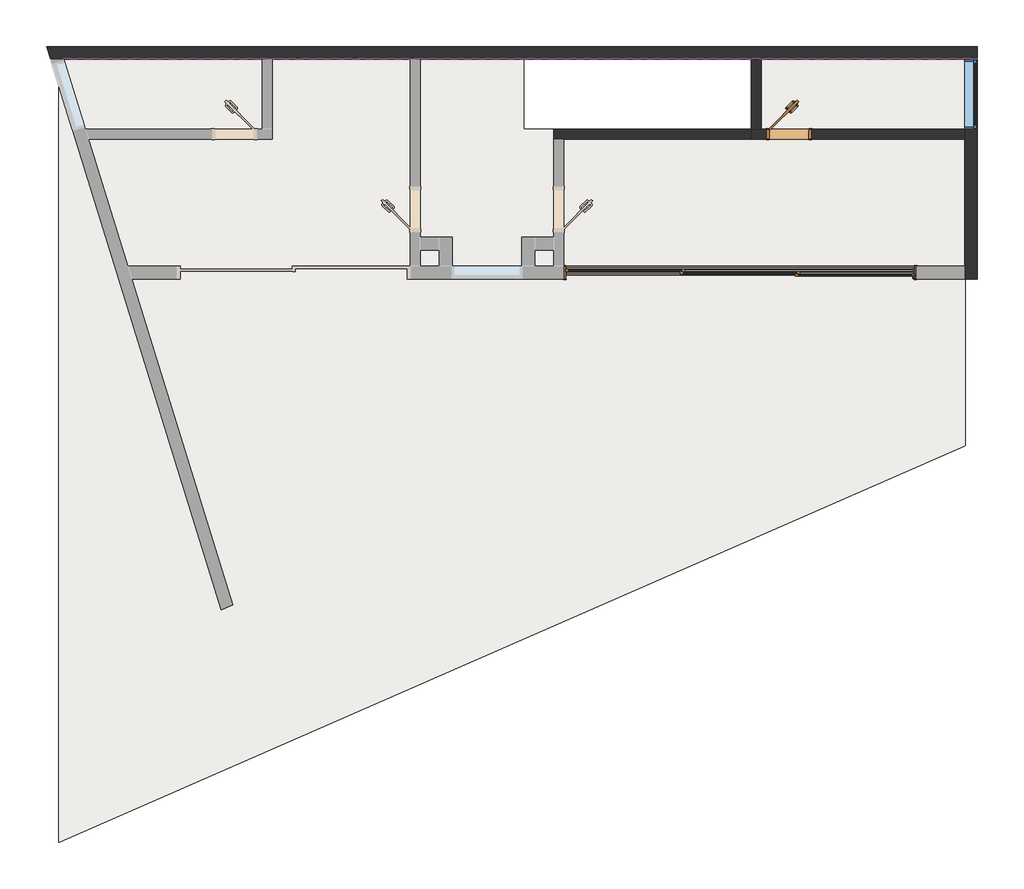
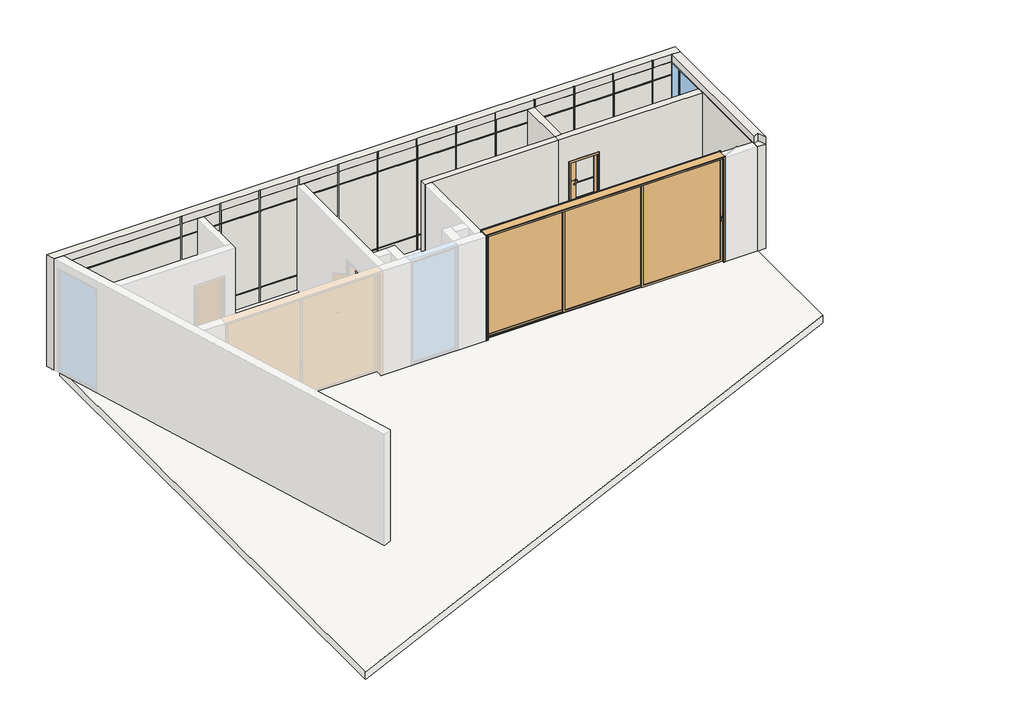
# One storey, part 2 of 2: 10 proxies, 5 walls, 2 doors, 1 slab, 1 window.
"""IFC4 building model written with IfcOpenShell, lengths in millimetres."""

from ifc_helpers import new_model, si_unit, frame, origin, place, context, project, spatial, polyline, outline, extrude, faceted_brep, transform, mapped, element, save
from components import door_0_70x2_10_7b4c54ac, door_280x600_c2e8b364, m_fixo_parede_completa_preta_2_8m_a4844c1d

model = new_model("IFC4")

# Units and contexts
model_context = context("Model", 3, world=origin())
ifc_project = project(units=[si_unit("LENGTHUNIT", "METRE", prefix="MILLI")], contexts=[model_context])

# Site, building, storey
site = spatial("IfcSite", under=ifc_project)
building = spatial("IfcBuilding", under=site)
storey = spatial("IfcBuildingStorey", under=building, Name="PÁV. SUPERIOR", Elevation=3700.0)

# Proxies
placement = place(None, origin())
element("IfcBuildingElementProxy", 1, Name="FRISO 01", ObjectType="FRISO 01", at=placement, inside=storey, context=model_context, shape_type="SweptSolid", body=[
    extrude(outline(polyline([(7561.0881727, 3700.0), (7546.0881727, 3700.0), (7546.0881727, 6500.0), (7556.0881727, 6500.0), (7556.0881727, 6700.0), (7561.0881727, 6700.0), (7561.0881727, 3700.0)])), frame((-3255.9261097, 0.0, 0.0), z_axis=(1.0, 0.0, 0.0), x_axis=(0.0, 1.0, 0.0)), (0.0, 0.0, 1.0), 30.0),
])
element("IfcBuildingElementProxy", 2, Name="FRISO 01", ObjectType="FRISO 01", at=placement, inside=storey, context=model_context, shape_type="SweptSolid", body=[
    extrude(outline(polyline([(7561.0881727, 3700.0), (7546.0881727, 3700.0), (7546.0881727, 6500.0), (7556.0881727, 6500.0), (7556.0881727, 6700.0), (7561.0881727, 6700.0), (7561.0881727, 3700.0)])), frame((-2255.9261097, 0.0, 0.0), z_axis=(1.0, 0.0, 0.0), x_axis=(0.0, 1.0, 0.0)), (0.0, 0.0, 1.0), 30.0),
])
element("IfcBuildingElementProxy", 3, Name="FRISO 01", ObjectType="FRISO 01", at=placement, inside=storey, context=model_context, shape_type="SweptSolid", body=[
    extrude(outline(polyline([(7561.0881727, 3700.0), (7546.0881727, 3700.0), (7546.0881727, 6500.0), (7556.0881727, 6500.0), (7556.0881727, 6700.0), (7561.0881727, 6700.0), (7561.0881727, 3700.0)])), frame((-1255.9261097, 0.0, 0.0), z_axis=(1.0, 0.0, 0.0), x_axis=(0.0, 1.0, 0.0)), (0.0, 0.0, 1.0), 30.0),
])
element("IfcBuildingElementProxy", 4, Name="FRISO 01", ObjectType="FRISO 01", at=placement, inside=storey, context=model_context, shape_type="SweptSolid", body=[
    extrude(outline(polyline([(7561.0881727, 3700.0), (7546.0881727, 3700.0), (7546.0881727, 6500.0), (7556.0881727, 6500.0), (7556.0881727, 6700.0), (7561.0881727, 6700.0), (7561.0881727, 3700.0)])), frame((-255.9261097, 0.0, 0.0), z_axis=(1.0, 0.0, 0.0), x_axis=(0.0, 1.0, 0.0)), (0.0, 0.0, 1.0), 30.0),
])
element("IfcBuildingElementProxy", 5, Name="FRISO 01", ObjectType="FRISO 01", at=placement, inside=storey, context=model_context, shape_type="SweptSolid", body=[
    extrude(outline(polyline([(7561.0881727, 3700.0), (7546.0881727, 3700.0), (7546.0881727, 6500.0), (7556.0881727, 6500.0), (7556.0881727, 6700.0), (7561.0881727, 6700.0), (7561.0881727, 3700.0)])), frame((744.0738903, 0.0, 0.0), z_axis=(1.0, 0.0, 0.0), x_axis=(0.0, 1.0, 0.0)), (0.0, 0.0, 1.0), 30.0),
])
element("IfcBuildingElementProxy", 6, Name="FRISO 01", ObjectType="FRISO 01", at=placement, inside=storey, context=model_context, shape_type="SweptSolid", body=[
    extrude(outline(polyline([(7561.0881727, 3700.0), (7546.0881727, 3700.0), (7546.0881727, 6500.0), (7556.0881727, 6500.0), (7556.0881727, 6700.0), (7561.0881727, 6700.0), (7561.0881727, 3700.0)])), frame((1744.0738903, 0.0, 0.0), z_axis=(1.0, 0.0, 0.0), x_axis=(0.0, 1.0, 0.0)), (0.0, 0.0, 1.0), 30.0),
])
element("IfcBuildingElementProxy", 7, Name="FRISO 01", ObjectType="FRISO 01", at=placement, inside=storey, context=model_context, shape_type="SweptSolid", body=[
    extrude(outline(polyline([(7561.0881727, 3700.0), (7546.0881727, 3700.0), (7546.0881727, 6500.0), (7556.0881727, 6500.0), (7556.0881727, 6700.0), (7561.0881727, 6700.0), (7561.0881727, 3700.0)])), frame((2744.0738903, 0.0, 0.0), z_axis=(1.0, 0.0, 0.0), x_axis=(0.0, 1.0, 0.0)), (0.0, 0.0, 1.0), 30.0),
])
element("IfcBuildingElementProxy", 8, Name="FRISO 01", ObjectType="FRISO 01", at=placement, inside=storey, context=model_context, shape_type="SweptSolid", body=[
    extrude(outline(polyline([(7561.0881727, 3700.0), (7546.0881727, 3700.0), (7546.0881727, 6500.0), (7556.0881727, 6500.0), (7556.0881727, 6700.0), (7561.0881727, 6700.0), (7561.0881727, 3700.0)])), frame((3744.0738903, 0.0, 0.0), z_axis=(1.0, 0.0, 0.0), x_axis=(0.0, 1.0, 0.0)), (0.0, 0.0, 1.0), 30.0),
])
element("IfcBuildingElementProxy", 9, Name="FRISO 01", ObjectType="FRISO 01", at=placement, inside=storey, context=model_context, shape_type="SweptSolid", body=[
    extrude(outline(polyline([(-11243.1247194, 7546.0881727), (-11247.7672781, 7561.0881727), (4458.4881645, 7561.0881727), (4458.4881645, 7546.0881727), (-11243.1247194, 7546.0881727)])), frame((0.0, 0.0, 6140.0), z_axis=(0.0, 0.0, 1.0), x_axis=(1.0, 0.0, 0.0)), (0.0, 0.0, 1.0), 30.0),
])
element("IfcBuildingElementProxy", 10, Name="FRISO 01", ObjectType="FRISO 01", at=placement, inside=storey, context=model_context, shape_type="SweptSolid", body=[
    extrude(outline(polyline([(-11243.1247194, 7546.0881727), (-11247.7672781, 7561.0881727), (4458.4881645, 7561.0881727), (4458.4881645, 7546.0881727), (-11243.1247194, 7546.0881727)])), frame((0.0, 0.0, 4080.0), z_axis=(0.0, 0.0, 1.0), x_axis=(1.0, 0.0, 0.0)), (0.0, 0.0, 1.0), 30.0),
])

# Doors
door_0_70x2_10_shape = door_0_70x2_10_7b4c54ac(model_context)
element("IfcDoor", 11, ObjectType="porta de abrir simples : 0,70x2,10", at=placement, inside=storey, context=model_context, shape_type="MappedRepresentation", body=[
    mapped(door_0_70x2_10_shape, transform((1218.4881645, 6261.0881727, 3700.0), x_axis=(1.0, 0.0, 0.0), y_axis=(0.0, 1.0, 0.0), z_axis=(0.0, 0.0, 1.0))),
])
door_280x600_shape = door_280x600_c2e8b364(model_context)
element("IfcDoor", 12, ObjectType="porta de correr uma direção : 280X600", at=placement, inside=storey, context=model_context, shape_type="MappedRepresentation", body=[
    mapped(door_280x600_shape, transform((378.8175746, 3876.629058, 3700.0), x_axis=(1.0, 0.0, 0.0), y_axis=(0.0, 1.0, 0.0), z_axis=(0.0, 0.0, 1.0))),
])

# Slab
element("IfcSlab", 13, ObjectType="Concreto polido - 20cm", at=placement, inside=storey, context=model_context, shape_type="Brep", body=[
    faceted_brep([(-11331.5118355, -5920.0331832, 3500.0), (-11331.5118355, 7556.0881727, 3500.0), (-11321.5118355, 7556.0881727, 3500.0), (-3341.5118355, 7556.0881727, 3500.0), (-3341.5118355, 7546.0881727, 3500.0), (-3341.5118355, 6346.0881727, 3500.0), (568.4881645, 6346.0881727, 3500.0), (568.4881645, 7546.0881727, 3500.0), (568.4881645, 7556.0881727, 3500.0), (4238.4881645, 7556.0881727, 3500.0), (4248.4881645, 7556.0881727, 3500.0), (4248.4881645, 2486.629058, 3500.0), (4248.4881645, 1286.629058, 3500.0), (4248.4881645, 903.3736599, 3500.0), (4238.4881645, 898.9940663, 3500.0), (-11321.5118355, -5915.6535896, 3500.0), (3994.290898, 986.629058, 3500.0), (3994.290898, 1008.4630535, 3500.0), (3944.4369675, 986.629058, 3500.0), (3442.1072547, 766.629058, 3500.0), (-11170.9584324, -5633.2998514, 3500.0), (-11170.9584324, -5655.1338469, 3500.0), (3491.9611852, 766.629058, 3500.0), (-11331.5118355, 7556.0881727, 3700.0), (-11331.5118355, -5920.0331832, 3700.0), (-11321.5118355, -5915.6535896, 3700.0), (4238.4881645, 898.9940663, 3700.0), (4248.4881645, 903.3736599, 3700.0), (4248.4881645, 7556.0881727, 3700.0), (4238.4881645, 7556.0881727, 3700.0), (568.4881645, 7556.0881727, 3700.0), (568.4881645, 7546.0881727, 3700.0), (568.4881645, 6346.0881727, 3700.0), (-3341.5118355, 6346.0881727, 3700.0), (-3341.5118355, 7546.0881727, 3700.0), (-3341.5118355, 7556.0881727, 3700.0), (-11321.5118355, 7556.0881727, 3700.0), (3994.290898, 986.629058, 3520.0), (3491.9611852, 766.629058, 3520.0), (-11170.9584324, -5655.1338469, 3520.0), (-11170.9584324, -5633.2998514, 3520.0), (3442.1072547, 766.629058, 3520.0), (3944.4369675, 986.629058, 3520.0), (3994.290898, 1008.4630535, 3520.0)], [[[0, 1, 2, 3, 4, 5, 6, 7, 8, 9, 10, 11, 12, 13, 14, 15], [16, 17, 18, 19, 20, 21, 22]], [[23, 24, 25, 26, 27, 28, 29, 30, 31, 32, 33, 34, 35, 36]], [[1, 0, 24, 23]], [[10, 9, 8, 30, 29, 28]], [[13, 12, 11, 10, 28, 27]], [[0, 15, 14, 13, 27, 26, 25, 24]], [[3, 2, 1, 23, 36, 35]], [[5, 4, 3, 35, 34, 33]], [[6, 5, 33, 32]], [[8, 7, 6, 32, 31, 30]], [[37, 38, 39, 40, 41, 42, 43]], [[37, 43, 17, 16]], [[43, 42, 41, 40, 20, 19, 18, 17]], [[40, 39, 21, 20]], [[39, 38, 37, 16, 22, 21]]]),
])

# Walls
element("IfcWall", 14, ObjectType="Parede Externa - 22cm", at=placement, inside=storey, context=model_context, shape_type="Brep", body=[
    faceted_brep([(-3255.9261097, 7546.0881727, 6500.0), (-4225.9261097, 7546.0881727, 6500.0), (-4225.9261097, 7546.0881727, 6170.0), (-3255.9261097, 7546.0881727, 6170.0), (-4225.9261097, 7546.0881727, 3700.0), (-3341.5118355, 7546.0881727, 3700.0), (-3255.9261097, 7546.0881727, 3700.0), (-3255.9261097, 7546.0881727, 4080.0), (-4225.9261097, 7546.0881727, 4080.0), (-2255.9261097, 7546.0881727, 6500.0), (-3225.9261097, 7546.0881727, 6500.0), (-3225.9261097, 7546.0881727, 6170.0), (-2255.9261097, 7546.0881727, 6170.0), (-3225.9261097, 7546.0881727, 3700.0), (-2255.9261097, 7546.0881727, 3700.0), (-2255.9261097, 7546.0881727, 4080.0), (-3225.9261097, 7546.0881727, 4080.0), (-1255.9261097, 7546.0881727, 6500.0), (-2225.9261097, 7546.0881727, 6500.0), (-2225.9261097, 7546.0881727, 6170.0), (-1255.9261097, 7546.0881727, 6170.0), (-2225.9261097, 7546.0881727, 3700.0), (-1255.9261097, 7546.0881727, 3700.0), (-1255.9261097, 7546.0881727, 4080.0), (-2225.9261097, 7546.0881727, 4080.0), (-255.9261097, 7546.0881727, 6500.0), (-1225.9261097, 7546.0881727, 6500.0), (-1225.9261097, 7546.0881727, 6170.0), (-255.9261097, 7546.0881727, 6170.0), (-1225.9261097, 7546.0881727, 3700.0), (-255.9261097, 7546.0881727, 3700.0), (-255.9261097, 7546.0881727, 4080.0), (-1225.9261097, 7546.0881727, 4080.0), (744.0738903, 7546.0881727, 6500.0), (738.4881645, 7546.0881727, 6500.0), (568.4881645, 7546.0881727, 6500.0), (-225.9261097, 7546.0881727, 6500.0), (-225.9261097, 7546.0881727, 6170.0), (744.0738903, 7546.0881727, 6170.0), (-225.9261097, 7546.0881727, 3700.0), (568.4881645, 7546.0881727, 3700.0), (738.4881645, 7546.0881727, 3700.0), (744.0738903, 7546.0881727, 3700.0), (744.0738903, 7546.0881727, 4080.0), (-225.9261097, 7546.0881727, 4080.0), (1744.0738903, 7546.0881727, 6500.0), (774.0738903, 7546.0881727, 6500.0), (774.0738903, 7546.0881727, 6170.0), (1744.0738903, 7546.0881727, 6170.0), (774.0738903, 7546.0881727, 3700.0), (1744.0738903, 7546.0881727, 3700.0), (1744.0738903, 7546.0881727, 4080.0), (774.0738903, 7546.0881727, 4080.0), (2744.0738903, 7546.0881727, 6500.0), (1774.0738903, 7546.0881727, 6500.0), (1774.0738903, 7546.0881727, 6170.0), (2744.0738903, 7546.0881727, 6170.0), (1774.0738903, 7546.0881727, 3700.0), (2744.0738903, 7546.0881727, 3700.0), (2744.0738903, 7546.0881727, 4080.0), (1774.0738903, 7546.0881727, 4080.0), (3744.0738903, 7546.0881727, 6500.0), (2774.0738903, 7546.0881727, 6500.0), (2774.0738903, 7546.0881727, 6170.0), (3744.0738903, 7546.0881727, 6170.0), (2774.0738903, 7546.0881727, 3700.0), (3744.0738903, 7546.0881727, 3700.0), (3744.0738903, 7546.0881727, 4080.0), (2774.0738903, 7546.0881727, 4080.0), (3774.0738903, 7546.0881727, 3700.0), (4458.4881645, 7546.0881727, 3700.0), (4458.4881645, 7546.0881727, 4080.0), (3774.0738903, 7546.0881727, 4080.0), (-5225.9261097, 7546.0881727, 3700.0), (-5121.1824254, 7546.0881727, 3700.0), (-4255.9261097, 7546.0881727, 3700.0), (-4255.9261097, 7546.0881727, 4080.0), (-5225.9261097, 7546.0881727, 4080.0), (-6225.9261097, 7546.0881727, 3700.0), (-5291.1824254, 7546.0881727, 3700.0), (-5255.9261097, 7546.0881727, 3700.0), (-5255.9261097, 7546.0881727, 4080.0), (-6225.9261097, 7546.0881727, 4080.0), (-7225.9261097, 7546.0881727, 3700.0), (-6255.9261097, 7546.0881727, 3700.0), (-6255.9261097, 7546.0881727, 4080.0), (-7225.9261097, 7546.0881727, 4080.0), (-6255.9261097, 7546.0881727, 6500.0), (-7225.9261097, 7546.0881727, 6500.0), (-7225.9261097, 7546.0881727, 6170.0), (-6255.9261097, 7546.0881727, 6170.0), (-11473.4209749, 7546.0881727, 3700.0), (-11243.1247194, 7546.0881727, 3700.0), (-8255.9261097, 7546.0881727, 3700.0), (-8255.9261097, 7546.0881727, 4080.0), (-11243.1247194, 7546.0881727, 4080.0), (-11243.1247194, 7546.0881727, 4110.0), (-8255.9261097, 7546.0881727, 4110.0), (-8255.9261097, 7546.0881727, 6140.0), (-11243.1247194, 7546.0881727, 6140.0), (-11243.1247194, 7546.0881727, 6170.0), (-8255.9261097, 7546.0881727, 6170.0), (-8255.9261097, 7546.0881727, 6500.0), (-11243.1247194, 7546.0881727, 6500.0), (-11243.1247194, 7546.0881727, 6700.0), (-11473.4209749, 7546.0881727, 6700.0), (-8225.9261097, 7546.0881727, 3700.0), (-7831.5118355, 7546.0881727, 3700.0), (-7661.5118355, 7546.0881727, 3700.0), (-7255.9261097, 7546.0881727, 3700.0), (-7255.9261097, 7546.0881727, 4080.0), (-8225.9261097, 7546.0881727, 4080.0), (4458.4881645, 7546.0881727, 6140.0), (3774.0738903, 7546.0881727, 6140.0), (3774.0738903, 7546.0881727, 4110.0), (4458.4881645, 7546.0881727, 4110.0), (-4255.9261097, 7546.0881727, 6140.0), (-5225.9261097, 7546.0881727, 6140.0), (-5225.9261097, 7546.0881727, 4110.0), (-4255.9261097, 7546.0881727, 4110.0), (-3255.9261097, 7546.0881727, 6140.0), (-4225.9261097, 7546.0881727, 6140.0), (-4225.9261097, 7546.0881727, 4110.0), (-3255.9261097, 7546.0881727, 4110.0), (-2255.9261097, 7546.0881727, 6140.0), (-3225.9261097, 7546.0881727, 6140.0), (-3225.9261097, 7546.0881727, 4110.0), (-2255.9261097, 7546.0881727, 4110.0), (-1255.9261097, 7546.0881727, 6140.0), (-2225.9261097, 7546.0881727, 6140.0), (-2225.9261097, 7546.0881727, 4110.0), (-1255.9261097, 7546.0881727, 4110.0), (-255.9261097, 7546.0881727, 6140.0), (-1225.9261097, 7546.0881727, 6140.0), (-1225.9261097, 7546.0881727, 4110.0), (-255.9261097, 7546.0881727, 4110.0), (744.0738903, 7546.0881727, 6140.0), (-225.9261097, 7546.0881727, 6140.0), (-225.9261097, 7546.0881727, 4110.0), (744.0738903, 7546.0881727, 4110.0), (1744.0738903, 7546.0881727, 6140.0), (774.0738903, 7546.0881727, 6140.0), (774.0738903, 7546.0881727, 4110.0), (1744.0738903, 7546.0881727, 4110.0), (2744.0738903, 7546.0881727, 6140.0), (1774.0738903, 7546.0881727, 6140.0), (1774.0738903, 7546.0881727, 4110.0), (2744.0738903, 7546.0881727, 4110.0), (3744.0738903, 7546.0881727, 6140.0), (2774.0738903, 7546.0881727, 6140.0), (2774.0738903, 7546.0881727, 4110.0), (3744.0738903, 7546.0881727, 4110.0), (-5255.9261097, 7546.0881727, 6140.0), (-6225.9261097, 7546.0881727, 6140.0), (-6225.9261097, 7546.0881727, 4110.0), (-5255.9261097, 7546.0881727, 4110.0), (-6255.9261097, 7546.0881727, 6140.0), (-7225.9261097, 7546.0881727, 6140.0), (-7225.9261097, 7546.0881727, 4110.0), (-6255.9261097, 7546.0881727, 4110.0), (-7255.9261097, 7546.0881727, 6140.0), (-8225.9261097, 7546.0881727, 6140.0), (-8225.9261097, 7546.0881727, 4110.0), (-7255.9261097, 7546.0881727, 4110.0), (-4255.9261097, 7546.0881727, 6500.0), (-5121.1824254, 7546.0881727, 6500.0), (-5225.9261097, 7546.0881727, 6500.0), (-5225.9261097, 7546.0881727, 6170.0), (-4255.9261097, 7546.0881727, 6170.0), (-5255.9261097, 7546.0881727, 6500.0), (-5291.1824254, 7546.0881727, 6500.0), (-6225.9261097, 7546.0881727, 6500.0), (-6225.9261097, 7546.0881727, 6170.0), (-5255.9261097, 7546.0881727, 6170.0), (-7255.9261097, 7546.0881727, 6500.0), (-7661.5118355, 7546.0881727, 6500.0), (-7831.5118355, 7546.0881727, 6500.0), (-8225.9261097, 7546.0881727, 6500.0), (-8225.9261097, 7546.0881727, 6170.0), (-7255.9261097, 7546.0881727, 6170.0), (4458.4881645, 7546.0881727, 6700.0), (4248.4881645, 7546.0881727, 6700.0), (4248.4881645, 7546.0881727, 6500.0), (3774.0738903, 7546.0881727, 6500.0), (3774.0738903, 7546.0881727, 6170.0), (4458.4881645, 7546.0881727, 6170.0), (4458.4881645, 7546.0881727, 6500.0), (4458.4881645, 7766.0881727, 3700.0), (4238.4881645, 7766.0881727, 3700.0), (-11321.5118355, 7766.0881727, 3700.0), (-11541.5118355, 7766.0881727, 3700.0), (-11541.5118355, 7766.0881727, 6700.0), (4458.4881645, 7766.0881727, 6700.0), (3774.0738903, 7561.0881727, 3700.0), (3744.0738903, 7561.0881727, 3700.0), (2774.0738903, 7561.0881727, 3700.0), (2744.0738903, 7561.0881727, 3700.0), (1774.0738903, 7561.0881727, 3700.0), (1744.0738903, 7561.0881727, 3700.0), (774.0738903, 7561.0881727, 3700.0), (744.0738903, 7561.0881727, 3700.0), (-225.9261097, 7561.0881727, 3700.0), (-255.9261097, 7561.0881727, 3700.0), (-1225.9261097, 7561.0881727, 3700.0), (-1255.9261097, 7561.0881727, 3700.0), (-2225.9261097, 7561.0881727, 3700.0), (-2255.9261097, 7561.0881727, 3700.0), (-3225.9261097, 7561.0881727, 3700.0), (-3255.9261097, 7561.0881727, 3700.0), (-4225.9261097, 7561.0881727, 3700.0), (-4255.9261097, 7561.0881727, 3700.0), (-5225.9261097, 7561.0881727, 3700.0), (-5255.9261097, 7561.0881727, 3700.0), (-6225.9261097, 7561.0881727, 3700.0), (-6255.9261097, 7561.0881727, 3700.0), (-7225.9261097, 7561.0881727, 3700.0), (-7255.9261097, 7561.0881727, 3700.0), (-8225.9261097, 7561.0881727, 3700.0), (-8255.9261097, 7561.0881727, 3700.0), (-11246.2197586, 7556.0881727, 6700.0), (-8255.9261097, 7556.0881727, 6700.0), (-8255.9261097, 7561.0881727, 6700.0), (-8225.9261097, 7561.0881727, 6700.0), (-8225.9261097, 7556.0881727, 6700.0), (-7255.9261097, 7556.0881727, 6700.0), (-7255.9261097, 7561.0881727, 6700.0), (-7225.9261097, 7561.0881727, 6700.0), (-7225.9261097, 7556.0881727, 6700.0), (-6255.9261097, 7556.0881727, 6700.0), (-6255.9261097, 7561.0881727, 6700.0), (-6225.9261097, 7561.0881727, 6700.0), (-6225.9261097, 7556.0881727, 6700.0), (-5255.9261097, 7556.0881727, 6700.0), (-5255.9261097, 7561.0881727, 6700.0), (-5225.9261097, 7561.0881727, 6700.0), (-5225.9261097, 7556.0881727, 6700.0), (-4255.9261097, 7556.0881727, 6700.0), (-4255.9261097, 7561.0881727, 6700.0), (-4225.9261097, 7561.0881727, 6700.0), (-4225.9261097, 7556.0881727, 6700.0), (-3255.9261097, 7556.0881727, 6700.0), (-3255.9261097, 7561.0881727, 6700.0), (-3225.9261097, 7561.0881727, 6700.0), (-3225.9261097, 7556.0881727, 6700.0), (-2255.9261097, 7556.0881727, 6700.0), (-2255.9261097, 7561.0881727, 6700.0), (-2225.9261097, 7561.0881727, 6700.0), (-2225.9261097, 7556.0881727, 6700.0), (-1255.9261097, 7556.0881727, 6700.0), (-1255.9261097, 7561.0881727, 6700.0), (-1225.9261097, 7561.0881727, 6700.0), (-1225.9261097, 7556.0881727, 6700.0), (-255.9261097, 7556.0881727, 6700.0), (-255.9261097, 7561.0881727, 6700.0), (-225.9261097, 7561.0881727, 6700.0), (-225.9261097, 7556.0881727, 6700.0), (744.0738903, 7556.0881727, 6700.0), (744.0738903, 7561.0881727, 6700.0), (774.0738903, 7561.0881727, 6700.0), (774.0738903, 7556.0881727, 6700.0), (1744.0738903, 7556.0881727, 6700.0), (1744.0738903, 7561.0881727, 6700.0), (1774.0738903, 7561.0881727, 6700.0), (1774.0738903, 7556.0881727, 6700.0), (2744.0738903, 7556.0881727, 6700.0), (2744.0738903, 7561.0881727, 6700.0), (2774.0738903, 7561.0881727, 6700.0), (2774.0738903, 7556.0881727, 6700.0), (3744.0738903, 7556.0881727, 6700.0), (3744.0738903, 7561.0881727, 6700.0), (3774.0738903, 7561.0881727, 6700.0), (3774.0738903, 7556.0881727, 6700.0), (4248.4881645, 7556.0881727, 6700.0), (4458.4881645, 7561.0881727, 6170.0), (4458.4881645, 7561.0881727, 6140.0), (4458.4881645, 7561.0881727, 4110.0), (4458.4881645, 7561.0881727, 4080.0), (4248.4881645, 7556.0881727, 6500.0), (3774.0738903, 7556.0881727, 6500.0), (-4255.9261097, 7556.0881727, 6500.0), (-5225.9261097, 7556.0881727, 6500.0), (-4225.9261097, 7556.0881727, 6500.0), (-3255.9261097, 7556.0881727, 6500.0), (-3225.9261097, 7556.0881727, 6500.0), (-2255.9261097, 7556.0881727, 6500.0), (-2225.9261097, 7556.0881727, 6500.0), (-1255.9261097, 7556.0881727, 6500.0), (-1225.9261097, 7556.0881727, 6500.0), (-255.9261097, 7556.0881727, 6500.0), (-225.9261097, 7556.0881727, 6500.0), (744.0738903, 7556.0881727, 6500.0), (774.0738903, 7556.0881727, 6500.0), (1744.0738903, 7556.0881727, 6500.0), (1774.0738903, 7556.0881727, 6500.0), (2744.0738903, 7556.0881727, 6500.0), (2774.0738903, 7556.0881727, 6500.0), (3744.0738903, 7556.0881727, 6500.0), (-5255.9261097, 7556.0881727, 6500.0), (-6225.9261097, 7556.0881727, 6500.0), (-6255.9261097, 7556.0881727, 6500.0), (-7225.9261097, 7556.0881727, 6500.0), (-7255.9261097, 7556.0881727, 6500.0), (-8225.9261097, 7556.0881727, 6500.0), (-8255.9261097, 7556.0881727, 6500.0), (-11246.2197586, 7556.0881727, 6500.0), (-4255.9261097, 7561.0881727, 4080.0), (-4255.9261097, 7561.0881727, 6170.0), (-4255.9261097, 7561.0881727, 6140.0), (-4255.9261097, 7561.0881727, 4110.0), (-4225.9261097, 7561.0881727, 4080.0), (-4225.9261097, 7561.0881727, 6170.0), (-4225.9261097, 7561.0881727, 6140.0), (-4225.9261097, 7561.0881727, 4110.0), (-3255.9261097, 7561.0881727, 4080.0), (-3225.9261097, 7561.0881727, 4080.0), (-2255.9261097, 7561.0881727, 4080.0), (-2225.9261097, 7561.0881727, 4080.0), (-1255.9261097, 7561.0881727, 4080.0), (-1225.9261097, 7561.0881727, 4080.0), (-255.9261097, 7561.0881727, 4080.0), (-225.9261097, 7561.0881727, 4080.0), (744.0738903, 7561.0881727, 4080.0), (774.0738903, 7561.0881727, 4080.0), (1744.0738903, 7561.0881727, 4080.0), (1774.0738903, 7561.0881727, 4080.0), (2744.0738903, 7561.0881727, 4080.0), (2774.0738903, 7561.0881727, 4080.0), (3744.0738903, 7561.0881727, 4080.0), (3774.0738903, 7561.0881727, 4080.0), (3774.0738903, 7561.0881727, 4110.0), (3774.0738903, 7561.0881727, 6140.0), (3774.0738903, 7561.0881727, 6170.0), (3744.0738903, 7561.0881727, 6170.0), (2774.0738903, 7561.0881727, 6170.0), (2744.0738903, 7561.0881727, 6170.0), (1774.0738903, 7561.0881727, 6170.0), (1744.0738903, 7561.0881727, 6170.0), (774.0738903, 7561.0881727, 6170.0), (744.0738903, 7561.0881727, 6170.0), (-225.9261097, 7561.0881727, 6170.0), (-255.9261097, 7561.0881727, 6170.0), (-1225.9261097, 7561.0881727, 6170.0), (-1255.9261097, 7561.0881727, 6170.0), (-2225.9261097, 7561.0881727, 6170.0), (-2255.9261097, 7561.0881727, 6170.0), (-3225.9261097, 7561.0881727, 6170.0), (-3255.9261097, 7561.0881727, 6170.0), (-5225.9261097, 7561.0881727, 6170.0), (-5255.9261097, 7561.0881727, 6170.0), (-6225.9261097, 7561.0881727, 6170.0), (-6255.9261097, 7561.0881727, 6170.0), (-7225.9261097, 7561.0881727, 6170.0), (-7255.9261097, 7561.0881727, 6170.0), (-8225.9261097, 7561.0881727, 6170.0), (-8255.9261097, 7561.0881727, 6170.0), (-11247.7672781, 7561.0881727, 6170.0), (-11247.7672781, 7561.0881727, 6140.0), (-8255.9261097, 7561.0881727, 6140.0), (-8255.9261097, 7561.0881727, 4110.0), (-11247.7672781, 7561.0881727, 4110.0), (-11247.7672781, 7561.0881727, 4080.0), (-8255.9261097, 7561.0881727, 4080.0), (-8225.9261097, 7561.0881727, 4080.0), (-7255.9261097, 7561.0881727, 4080.0), (-7225.9261097, 7561.0881727, 4080.0), (-6255.9261097, 7561.0881727, 4080.0), (-6225.9261097, 7561.0881727, 4080.0), (-5255.9261097, 7561.0881727, 4080.0), (-5225.9261097, 7561.0881727, 4080.0), (-5225.9261097, 7561.0881727, 4110.0), (-5225.9261097, 7561.0881727, 6140.0), (-3255.9261097, 7561.0881727, 6140.0), (-3255.9261097, 7561.0881727, 4110.0), (-2255.9261097, 7561.0881727, 6140.0), (-2255.9261097, 7561.0881727, 4110.0), (-3225.9261097, 7561.0881727, 4110.0), (-3225.9261097, 7561.0881727, 6140.0), (-1255.9261097, 7561.0881727, 6140.0), (-1255.9261097, 7561.0881727, 4110.0), (-2225.9261097, 7561.0881727, 4110.0), (-2225.9261097, 7561.0881727, 6140.0), (-255.9261097, 7561.0881727, 6140.0), (-255.9261097, 7561.0881727, 4110.0), (-1225.9261097, 7561.0881727, 4110.0), (-1225.9261097, 7561.0881727, 6140.0), (744.0738903, 7561.0881727, 6140.0), (744.0738903, 7561.0881727, 4110.0), (-225.9261097, 7561.0881727, 4110.0), (-225.9261097, 7561.0881727, 6140.0), (1744.0738903, 7561.0881727, 6140.0), (1744.0738903, 7561.0881727, 4110.0), (774.0738903, 7561.0881727, 4110.0), (774.0738903, 7561.0881727, 6140.0), (2744.0738903, 7561.0881727, 6140.0), (2744.0738903, 7561.0881727, 4110.0), (1774.0738903, 7561.0881727, 4110.0), (1774.0738903, 7561.0881727, 6140.0), (3744.0738903, 7561.0881727, 6140.0), (3744.0738903, 7561.0881727, 4110.0), (2774.0738903, 7561.0881727, 4110.0), (2774.0738903, 7561.0881727, 6140.0), (-5255.9261097, 7561.0881727, 6140.0), (-5255.9261097, 7561.0881727, 4110.0), (-6225.9261097, 7561.0881727, 4110.0), (-6225.9261097, 7561.0881727, 6140.0), (-6255.9261097, 7561.0881727, 6140.0), (-6255.9261097, 7561.0881727, 4110.0), (-7225.9261097, 7561.0881727, 4110.0), (-7225.9261097, 7561.0881727, 6140.0), (-7255.9261097, 7561.0881727, 6140.0), (-7255.9261097, 7561.0881727, 4110.0), (-8225.9261097, 7561.0881727, 4110.0), (-8225.9261097, 7561.0881727, 6140.0)], [[[0, 1, 2, 3]], [[4, 5, 6, 7, 8]], [[9, 10, 11, 12]], [[13, 14, 15, 16]], [[17, 18, 19, 20]], [[21, 22, 23, 24]], [[25, 26, 27, 28]], [[29, 30, 31, 32]], [[33, 34, 35, 36, 37, 38]], [[39, 40, 41, 42, 43, 44]], [[45, 46, 47, 48]], [[49, 50, 51, 52]], [[53, 54, 55, 56]], [[57, 58, 59, 60]], [[61, 62, 63, 64]], [[65, 66, 67, 68]], [[69, 70, 71, 72]], [[73, 74, 75, 76, 77]], [[78, 79, 80, 81, 82]], [[83, 84, 85, 86]], [[87, 88, 89, 90]], [[91, 92, 93, 94, 95, 96, 97, 98, 99, 100, 101, 102, 103, 104, 105]], [[106, 107, 108, 109, 110, 111]], [[112, 113, 114, 115]], [[116, 117, 118, 119]], [[120, 121, 122, 123]], [[124, 125, 126, 127]], [[128, 129, 130, 131]], [[132, 133, 134, 135]], [[136, 137, 138, 139]], [[140, 141, 142, 143]], [[144, 145, 146, 147]], [[148, 149, 150, 151]], [[152, 153, 154, 155]], [[156, 157, 158, 159]], [[160, 161, 162, 163]], [[164, 165, 166, 167, 168]], [[169, 170, 171, 172, 173]], [[174, 175, 176, 177, 178, 179]], [[180, 181, 182, 183, 184, 185, 186]], [[187, 188, 189, 190, 191, 192]], [[190, 189, 188, 187, 70, 69, 193, 194, 66, 65, 195, 196, 58, 57, 197, 198, 50, 49, 199, 200, 42, 41, 40, 39, 201, 202, 30, 29, 203, 204, 22, 21, 205, 206, 14, 13, 207, 208, 6, 5, 4, 209, 210, 75, 74, 73, 211, 212, 80, 79, 78, 213, 214, 84, 83, 215, 216, 109, 108, 107, 106, 217, 218, 93, 92, 91]], [[192, 191, 105, 104, 219, 220, 221, 222, 223, 224, 225, 226, 227, 228, 229, 230, 231, 232, 233, 234, 235, 236, 237, 238, 239, 240, 241, 242, 243, 244, 245, 246, 247, 248, 249, 250, 251, 252, 253, 254, 255, 256, 257, 258, 259, 260, 261, 262, 263, 264, 265, 266, 267, 268, 269, 270, 271, 272, 181, 180]], [[70, 187, 192, 180, 186, 185, 273, 274, 112, 115, 275, 276, 71]], [[182, 277, 278, 183]], [[164, 279, 280, 166, 165]], [[281, 1, 0, 282]], [[283, 10, 9, 284]], [[285, 18, 17, 286]], [[287, 26, 25, 288]], [[289, 36, 35, 34, 33, 290]], [[291, 46, 45, 292]], [[293, 54, 53, 294]], [[295, 62, 61, 296]], [[169, 297, 298, 171, 170]], [[87, 299, 300, 88]], [[174, 301, 302, 177, 176, 175]], [[103, 102, 303, 304]], [[277, 272, 271, 278]], [[279, 236, 235, 280]], [[239, 281, 282, 240]], [[243, 283, 284, 244]], [[247, 285, 286, 248]], [[251, 287, 288, 252]], [[255, 289, 290, 256]], [[259, 291, 292, 260]], [[263, 293, 294, 264]], [[267, 295, 296, 268]], [[297, 232, 231, 298]], [[299, 228, 227, 300]], [[301, 224, 223, 302]], [[220, 219, 304, 303]], [[272, 277, 182, 181]], [[75, 210, 305, 76]], [[237, 236, 279, 164, 168, 306]], [[307, 116, 119, 308]], [[209, 4, 8, 309]], [[239, 238, 310, 2, 1, 281]], [[121, 311, 312, 122]], [[210, 209, 309, 313, 208, 207, 314, 315, 206, 205, 316, 317, 204, 203, 318, 319, 202, 201, 320, 321, 200, 199, 322, 323, 198, 197, 324, 325, 196, 195, 326, 327, 194, 193, 328, 276, 275, 329, 330, 274, 273, 331, 270, 269, 332, 333, 266, 265, 334, 335, 262, 261, 336, 337, 258, 257, 338, 339, 254, 253, 340, 341, 250, 249, 342, 343, 246, 245, 344, 345, 242, 241, 346, 310, 238, 237, 306, 347, 234, 233, 348, 349, 230, 229, 350, 351, 226, 225, 352, 353, 222, 221, 354, 355, 356, 357, 358, 359, 360, 361, 218, 217, 362, 363, 216, 215, 364, 365, 214, 213, 366, 367, 212, 211, 368, 305], [307, 308, 369, 370], [371, 372, 312, 311], [373, 374, 375, 376], [377, 378, 379, 380], [381, 382, 383, 384], [385, 386, 387, 388], [389, 390, 391, 392], [393, 394, 395, 396], [397, 398, 399, 400], [401, 402, 403, 404], [405, 406, 407, 408], [409, 410, 411, 412]], [[6, 208, 313, 7]], [[241, 240, 282, 0, 3, 346]], [[371, 120, 123, 372]], [[207, 13, 16, 314]], [[243, 242, 345, 11, 10, 283]], [[125, 376, 375, 126]], [[14, 206, 315, 15]], [[245, 244, 284, 9, 12, 344]], [[373, 124, 127, 374]], [[205, 21, 24, 316]], [[247, 246, 343, 19, 18, 285]], [[129, 380, 379, 130]], [[22, 204, 317, 23]], [[249, 248, 286, 17, 20, 342]], [[377, 128, 131, 378]], [[203, 29, 32, 318]], [[251, 250, 341, 27, 26, 287]], [[133, 384, 383, 134]], [[30, 202, 319, 31]], [[253, 252, 288, 25, 28, 340]], [[381, 132, 135, 382]], [[201, 39, 44, 320]], [[255, 254, 339, 37, 36, 289]], [[137, 388, 387, 138]], [[42, 200, 321, 43]], [[257, 256, 290, 33, 38, 338]], [[385, 136, 139, 386]], [[199, 49, 52, 322]], [[259, 258, 337, 47, 46, 291]], [[141, 392, 391, 142]], [[50, 198, 323, 51]], [[261, 260, 292, 45, 48, 336]], [[389, 140, 143, 390]], [[197, 57, 60, 324]], [[263, 262, 335, 55, 54, 293]], [[145, 396, 395, 146]], [[58, 196, 325, 59]], [[265, 264, 294, 53, 56, 334]], [[393, 144, 147, 394]], [[195, 65, 68, 326]], [[267, 266, 333, 63, 62, 295]], [[149, 400, 399, 150]], [[66, 194, 327, 67]], [[269, 268, 296, 61, 64, 332]], [[397, 148, 151, 398]], [[193, 69, 72, 328]], [[271, 270, 331, 184, 183, 278]], [[113, 330, 329, 114]], [[80, 212, 367, 81]], [[233, 232, 297, 169, 173, 348]], [[401, 152, 155, 402]], [[211, 73, 77, 368]], [[235, 234, 347, 167, 166, 280]], [[117, 370, 369, 118]], [[84, 214, 365, 85]], [[229, 228, 299, 87, 90, 350]], [[405, 156, 159, 406]], [[213, 78, 82, 366]], [[231, 230, 349, 172, 171, 298]], [[153, 404, 403, 154]], [[109, 216, 363, 110]], [[225, 224, 301, 174, 179, 352]], [[409, 160, 163, 410]], [[215, 83, 86, 364]], [[227, 226, 351, 89, 88, 300]], [[157, 408, 407, 158]], [[93, 218, 361, 94]], [[221, 220, 303, 102, 101, 354]], [[357, 98, 97, 358]], [[217, 106, 111, 362]], [[223, 222, 353, 178, 177, 302]], [[161, 412, 411, 162]], [[99, 356, 355, 100]], [[356, 99, 98, 357]], [[371, 311, 121, 120]], [[373, 376, 125, 124]], [[377, 380, 129, 128]], [[381, 384, 133, 132]], [[385, 388, 137, 136]], [[389, 392, 141, 140]], [[393, 396, 145, 144]], [[397, 400, 149, 148]], [[274, 330, 113, 112]], [[307, 370, 117, 116]], [[401, 404, 153, 152]], [[405, 408, 157, 156]], [[409, 412, 161, 160]], [[100, 355, 354, 101]], [[310, 346, 3, 2]], [[345, 344, 12, 11]], [[343, 342, 20, 19]], [[341, 340, 28, 27]], [[339, 338, 38, 37]], [[337, 336, 48, 47]], [[335, 334, 56, 55]], [[333, 332, 64, 63]], [[331, 273, 185, 184]], [[347, 306, 168, 167]], [[349, 348, 173, 172]], [[351, 350, 90, 89]], [[353, 352, 179, 178]], [[95, 360, 359, 96]], [[360, 95, 94, 361]], [[305, 368, 77, 76]], [[276, 328, 72, 71]], [[313, 309, 8, 7]], [[315, 314, 16, 15]], [[317, 316, 24, 23]], [[319, 318, 32, 31]], [[321, 320, 44, 43]], [[323, 322, 52, 51]], [[325, 324, 60, 59]], [[327, 326, 68, 67]], [[367, 366, 82, 81]], [[365, 364, 86, 85]], [[363, 362, 111, 110]], [[96, 359, 358, 97]], [[369, 308, 119, 118]], [[329, 275, 115, 114]], [[312, 372, 123, 122]], [[375, 374, 127, 126]], [[379, 378, 131, 130]], [[383, 382, 135, 134]], [[387, 386, 139, 138]], [[391, 390, 143, 142]], [[395, 394, 147, 146]], [[399, 398, 151, 150]], [[403, 402, 155, 154]], [[407, 406, 159, 158]], [[411, 410, 163, 162]], [[91, 105, 191, 190]], [[304, 219, 104, 103]]]),
])
element("IfcWall", 15, ObjectType="Parede Externa - 22cm", at=placement, inside=storey, context=model_context, shape_type="Brep", body=[
    faceted_brep([(4238.4881645, 3766.629058, 6500.0), (4238.4881645, 3986.629058, 6500.0), (4238.4881645, 6176.0881727, 6500.0), (4238.4881645, 6346.0881727, 6500.0), (4238.4881645, 6346.0881727, 3700.0), (4238.4881645, 6176.0881727, 3700.0), (4238.4881645, 3986.629058, 3700.0), (4238.4881645, 3766.629058, 3700.0), (4458.4881645, 7546.0881727, 6700.0), (4458.4881645, 3766.629058, 6700.0), (4458.4881645, 3766.629058, 6500.0), (4458.4881645, 3766.629058, 3700.0), (4458.4881645, 6346.0881727, 3700.0), (4458.4881645, 6346.0881727, 6500.0), (4458.4881645, 7546.0881727, 6500.0), (4248.4881645, 7546.0881727, 6700.0), (4248.4881645, 3914.831543, 6700.0), (4370.2303289, 3968.1496635, 6700.0), (4248.4881645, 7546.0881727, 6500.0), (4248.4881645, 6346.0881727, 6500.0), (4370.2303289, 3968.1496635, 6500.0), (4248.4881645, 3914.831543, 6500.0)], [[[0, 1, 2, 3, 4, 5, 6, 7]], [[8, 9, 10, 11, 12, 13, 14]], [[11, 7, 6, 5, 4, 12]], [[9, 8, 15, 16, 17]], [[8, 14, 18, 15]], [[19, 3, 2, 1, 0, 10, 20, 21]], [[16, 15, 18, 19, 21]], [[4, 3, 19, 13, 12]], [[14, 13, 19, 18]], [[7, 11, 10, 0]], [[20, 17, 16, 21]], [[17, 20, 10, 9]]]),
])
element("IfcWall", 16, ObjectType="Parede Interna - 17 cm", at=placement, inside=storey, context=model_context, shape_type="Brep", body=[
    faceted_brep([(4238.4881645, 6346.0881727, 3700.0), (1598.4881645, 6346.0881727, 3700.0), (1598.4881645, 6346.0881727, 5830.0), (838.4881645, 6346.0881727, 5830.0), (838.4881645, 6346.0881727, 3700.0), (738.4881645, 6346.0881727, 3700.0), (568.4881645, 6346.0881727, 3700.0), (568.4881645, 6346.0881727, 6500.0), (738.4881645, 6346.0881727, 6500.0), (4238.4881645, 6346.0881727, 6500.0), (1598.4881645, 6176.0881727, 3700.0), (4238.4881645, 6176.0881727, 3700.0), (4238.4881645, 6176.0881727, 6500.0), (568.4881645, 6176.0881727, 6500.0), (568.4881645, 6176.0881727, 3700.0), (838.4881645, 6176.0881727, 3700.0), (838.4881645, 6176.0881727, 5830.0), (1598.4881645, 6176.0881727, 5830.0)], [[[0, 1, 2, 3, 4, 5, 6, 7, 8, 9]], [[10, 11, 12, 13, 14, 15, 16, 17]], [[0, 11, 10, 1]], [[6, 5, 4, 15, 14]], [[11, 0, 9, 12]], [[9, 8, 7, 13, 12]], [[17, 2, 1, 10]], [[2, 17, 16, 3]], [[3, 16, 15, 4]], [[6, 14, 13, 7]]]),
])
element("IfcWall", 17, ObjectType="Parede Interna - 17 cm", at=placement, inside=storey, context=model_context, shape_type="SweptSolid", body=[
    extrude(outline(polyline([(738.4881645, 7546.0881727), (738.4881645, 6346.0881727), (568.4881645, 6346.0881727), (568.4881645, 7546.0881727), (738.4881645, 7546.0881727)])), frame((0.0, 0.0, 3700.0), z_axis=(0.0, 0.0, 1.0), x_axis=(1.0, 0.0, 0.0)), (0.0, 0.0, 1.0), 2800.0),
])
element("IfcWall", 18, ObjectType="Parede Interna - 17 cm", at=placement, inside=storey, context=model_context, shape_type="Brep", body=[
    faceted_brep([(-2821.1824254, 6176.0881727, 3700.0), (-2651.1824254, 6176.0881727, 3700.0), (568.4881645, 6176.0881727, 3700.0), (568.4881645, 6176.0881727, 6500.0), (-2651.1824254, 6176.0881727, 6500.0), (-2821.1824254, 6176.0881727, 6500.0), (568.4881645, 6346.0881727, 3700.0), (-2821.1824254, 6346.0881727, 3700.0), (-2821.1824254, 6346.0881727, 6500.0), (568.4881645, 6346.0881727, 6500.0)], [[[0, 1, 2, 3, 4, 5]], [[6, 7, 8, 9]], [[2, 1, 0, 7, 6]], [[7, 0, 5, 8]], [[2, 6, 9, 3]], [[5, 4, 3, 9, 8]]]),
])

# Window
m_fixo_parede_completa_preta_2_8m_shape = m_fixo_parede_completa_preta_2_8m_a4844c1d(model_context)
element("IfcWindow", 19, ObjectType="M_Fixo : PAREDE COMPLETA - PRETA - 2,8m", at=placement, inside=storey, context=model_context, shape_type="MappedRepresentation", body=[
    mapped(m_fixo_parede_completa_preta_2_8m_shape, transform((4335.4881645, 6946.0881727, 2200.0), x_axis=(0.0, -1.0, 0.0), y_axis=(1.0, 0.0, 0.0), z_axis=(0.0, 0.0, 1.0))),
])

save(model, "model.ifc")
